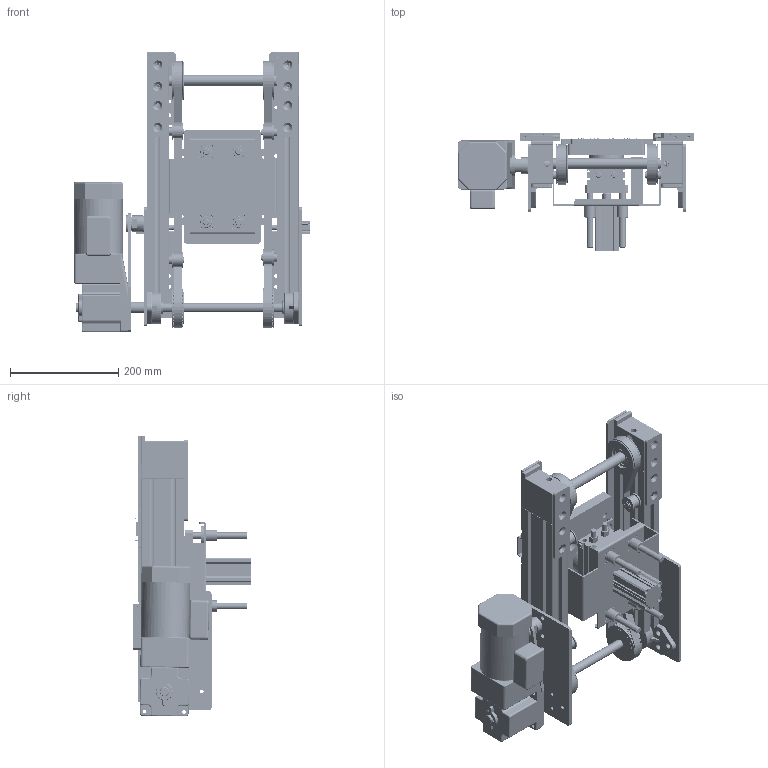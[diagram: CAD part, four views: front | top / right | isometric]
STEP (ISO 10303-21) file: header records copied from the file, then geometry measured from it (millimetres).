
FILE_DESCRIPTION(/* description */ (''),/* implementation_level */ '2;1');
FILE_NAME(/* name */ 'beltconveyor_a058_w200_l460.stp',/* time_stamp */ '2024-12-23T23:59:33+08:00',/* author */ (''),/* organization */ (''),/* preprocessor_version */ 'ST-DEVELOPER v16.7',/* originating_system */ 'SIEMENS PLM Software NX 12.0',/* authorisation */ '');
FILE_SCHEMA (('AUTOMOTIVE_DESIGN { 1 0 10303 214 3 1 1 1 }'));
Products named in the file (62): MLB protective mylar and foil-N; CDQ2B32-50D-xz-1; 氣缸頂升板_預設; 頂升汽缸軸_預設; 升降導桿_預設; A_EMSQB30A (1)_預設; 旋轉缸座_預設; LHTR12_LHTR12; jig25-N_預設; jig27-N_預設; jig29-N_預設; jig26-N_預設; jig31-N_預設; jig28-N_預設; CU_NTP-010-xz; CU_D-A93-xz; CDU10-15D(0_0)_BODY-xz; CDU10-15D(0)_ROD-xz; 90YT120GV22; 90GF10RC_預設; 惰轮轴_預設; 惰轮_預設; B6800_B6800; STWN10_STWN10; 尾部調整輪-R_預設; 端板（連接軸心端）_預設; 018-HTBN-15-135K-N; 光電固定片_預設; 導條-1_預設; 套管2(減速機端)_預設; prevent11-xz_預設; xz_002-xz_預設; 40 x 80-L490L_預設; 馬達固定板連接軸心_預設; 尾部調整輪-L_預設; FB203; 導條-2_預設; 40 x 80-L490R_預設; 固定板(非馬達側)_預設; 被動軸-235_預設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
Assembly tree (101 placements, depth 4):
  beltconveyor_a058_w200_l460
    擋料汽缸固定塊_預設  x2
    PSL-SC5DNO_預設
    018-GDPL-PEN-P_預設
    B6004_B6004  x2
    惰轮组_預設  x4
      STWN10_STWN10
      B6800_B6800
      惰轮_預設
      惰轮轴_預設
    018-HMRA71-16-42-L_預設  x2
    prevent12-xz_預設  x2
    調整輪固定片_預設  x2
    MDZB-4-6_預設  x2
    1-PU套管_預設
    驅動輪軸_預設
    固定板(馬達側)_預設
    導條-3_預設
    導條-4_預設  x2
    馬達固定板_預設
    90YT120GV22-90GF10RC
      90GF10RC_預設
      90YT120GV22
    018-HTPA28S8M150_A_N17_FC73_HTPA28S8M150-A-C15  x2
    被動軸-235_預設
    CDU10-15D-A93S(0_0_0)-xz  x2
      CDU10-15D(0)_ROD-xz
      CDU10-15D(0_0)_BODY-xz
      CU_D-A93-xz
      CU_NTP-010-xz
    固定板(非馬達側)_預設
    40 x 80-L490R_預設
    導條-2_預設
    FB203  x2
    尾部調整輪-L_預設
    馬達固定板連接軸心_預設
    jig004-N_預設
      jig28-N_預設  x4
      jig31-N_預設  x4
      jig26-N_預設  x2
      jig29-N_預設  x2
      jig27-N_預設  x8
      产品4连组-N_預設
        MLB protective mylar and foil-N  x4
      jig25-N_預設
    40 x 80-L490L_預設
    xz_002-xz_預設  x2
    prevent11-xz_預設
    套管2(減速機端)_預設
    導條-1_預設
    光電固定片_預設
    018-HTBN-15-135K-N  x2
    端板（連接軸心端）_預設
    尾部調整輪-R_預設
    顶升台_預設
      LHTR12_LHTR12  x4
      旋轉缸座_預設
      A_EMSQB30A (1)_預設
      升降導桿_預設  x4
      頂升汽缸軸_預設
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Bounding box: 435.55 x 218.15 x 518.49 mm (x, y, z)
Volume: 6348727.6 mm3; surface area: 1718345.6 mm2
Topology: 167 solids, 167 shells, 5259 faces, 13277 edges, 8535 vertices
Faces by surface type: cylinder 2378, plane 1834, cone 431, extrusion 369, torus 175, bspline 68, sphere 4
Entity records: 117944 total; most frequent: CARTESIAN_POINT 29556, ORIENTED_EDGE 18016, DIRECTION 17538, EDGE_CURVE 9008, AXIS2_PLACEMENT_3D 6355, VERTEX_POINT 5849, VECTOR 4828, LINE 4459
